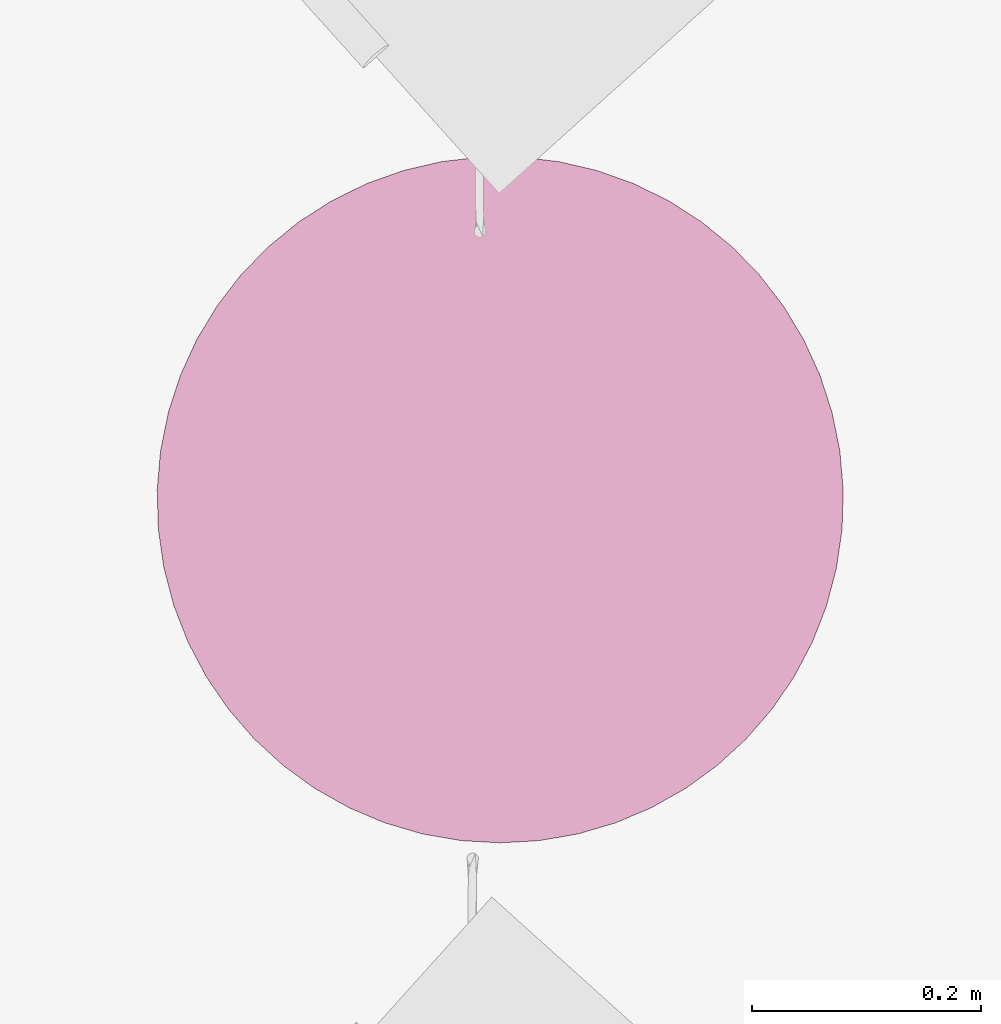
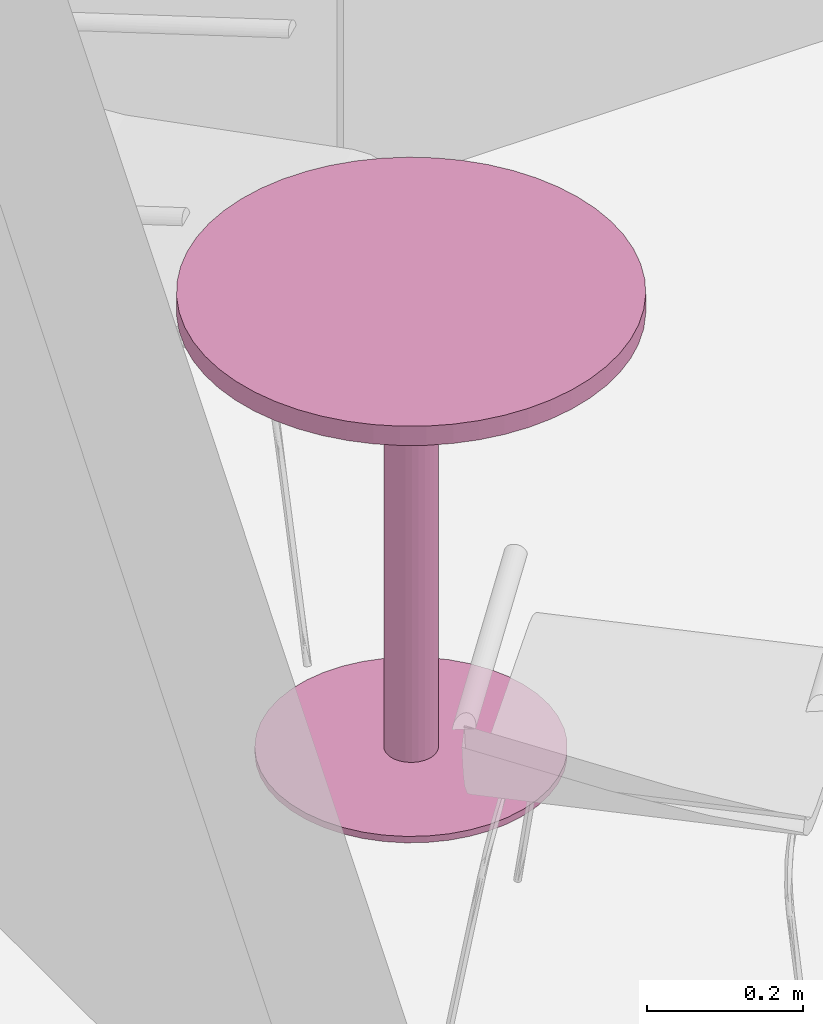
# One storey, part 46 of 58: 1 furnishing.
"""IFC2X3 building model written with IfcOpenShell, lengths in millimetres."""

from ifc_helpers import new_model, entity, si_unit, converted_unit, derived_unit, direction, frame, frame_2d, origin, place, context, subcontext, project, spatial, circle, extrude, source, transform, mapped, material, material_list, type_object, type_shapes, element, save


model = new_model("IFC2X3")

# Units and contexts
model_context = context("Model", 3, precision=0.01, world=origin(), true_north=direction((0.7716245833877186, 0.6360782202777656)))
body_context = subcontext(model_context, "Body", "Model", "MODEL_VIEW")
ifc_project = project(units=[si_unit("LENGTHUNIT", "METRE", prefix="MILLI"), si_unit("AREAUNIT", "SQUARE_METRE"), converted_unit("PLANEANGLEUNIT", "DEGREE", entity("IfcPlaneAngleMeasure", 0.017453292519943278), si_unit("PLANEANGLEUNIT", "RADIAN"), dimensions=[0, 0, 0, 0, 0, 0, 0]), derived_unit("THERMALTRANSMITTANCEUNIT", [(si_unit("MASSUNIT", "GRAM", prefix="KILO"), 1), (si_unit("THERMODYNAMICTEMPERATUREUNIT", "KELVIN"), -1), (si_unit("TIMEUNIT", "SECOND"), -3)])], contexts=[model_context])

# Site, building, storey
site_placement = place(None, origin())
site = spatial("IfcSite", under=ifc_project, at=site_placement, Name="Default", CompositionType="ELEMENT")
building_placement = place(site_placement, origin())
building = spatial("IfcBuilding", under=site, at=building_placement, CompositionType="ELEMENT")
storey_placement = place(building_placement, frame((0.0, 0.0, 31140.0)))
storey = spatial("IfcBuildingStorey", under=building, at=storey_placement, Name="PLAN U1", CompositionType="ELEMENT", Elevation=31140.000000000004)

# Furnishing
ifc_material_1 = material(Name="Plate")
ifc_material_2 = material(Name="Metall")
ifc_material_list = material_list([ifc_material_1, ifc_material_2])
furniture_type = type_object("IfcFurnitureType", Name="Bord-rundt:Bord, Ø600", AssemblyPlace="NOTDEFINED", material=ifc_material_list)
shared_shape = source(origin(), body_context, "Body", "SweptSolid", [
    extrude(circle(Radius=300.0, at=frame_2d((0.0, -1.4172507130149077e-12), x_axis=(1.0, 0.0))), frame((0.0, 0.0, 690.0)), (0.0, 0.0, 1.0), 29.99999999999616),
    extrude(circle(Radius=35.0, at=frame_2d((-4.3957322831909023e-16, -1.575743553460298e-13), x_axis=(1.0, 0.0))), frame((0.0, 0.0, 10.0)), (0.0, 0.0, 1.0), 680.0000000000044),
    extrude(circle(Radius=200.0, at=frame_2d((-8.4218585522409e-15, -9.448338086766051e-13), x_axis=(1.0, 0.0))), origin(), (0.0, 0.0, 1.0), 10.000000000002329),
])
type_shapes(furniture_type, [shared_shape])
furnishing_placement = place(storey_placement, frame((266567.9244464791, 56416.132847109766, 0.0), z_axis=(0.0, 0.0, 1.0), x_axis=(0.0, -1.0, 0.0)))
element("IfcFurnishingElement", 1, at=furnishing_placement, inside=storey, type_object=furniture_type, material=ifc_material_list, Name="Bord-rundt:Bord, Ø600", ObjectType="Bord-rundt:Bord, Ø600", context=body_context, shape_type="MappedRepresentation", body=[
    mapped(shared_shape, transform((0.0, 0.0, 0.0), scale=1.0)),
])

save(model, "model.ifc")
